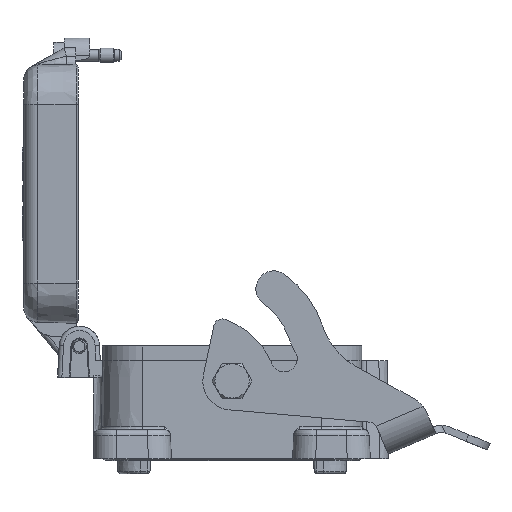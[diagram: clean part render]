
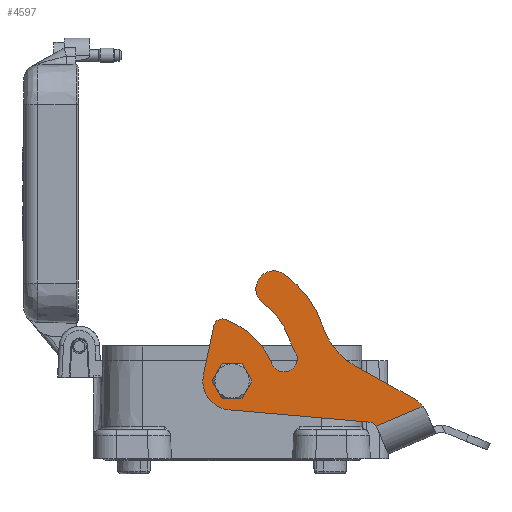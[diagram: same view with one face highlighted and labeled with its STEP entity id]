
A CAD part, left-side view. The second image highlights one B-rep face of the part: STEP entity #4597.
In plain terms, the highlighted planar face has unit normal (-1, 0, 0).
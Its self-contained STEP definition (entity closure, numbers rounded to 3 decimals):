
#4597=ADVANCED_FACE('',(#5594,#5595),#5336,.F.);
#5336=PLANE('',#18832);
#5594=FACE_BOUND('',#6130,.T.);
#5595=FACE_BOUND('',#6131,.T.);
#6130=EDGE_LOOP('',(#10694,#10695,#10696,#10697,#10698,#10699,#10700,#10701,
#10702,#10703,#10704,#10705,#10706,#10707,#10708,#10709));
#6131=EDGE_LOOP('',(#10710));
#7259=LINE('',#27713,#8385);
#7263=LINE('',#27725,#8389);
#7267=LINE('',#27760,#8393);
#7271=LINE('',#27776,#8397);
#8385=VECTOR('',#21288,1.);
#8389=VECTOR('',#21300,1.);
#8393=VECTOR('',#21318,1.);
#8397=VECTOR('',#21338,1.);
#10694=ORIENTED_EDGE('',*,*,#15643,.T.);
#10695=ORIENTED_EDGE('',*,*,#15634,.F.);
#10696=ORIENTED_EDGE('',*,*,#15635,.F.);
#10697=ORIENTED_EDGE('',*,*,#15638,.F.);
#10698=ORIENTED_EDGE('',*,*,#15592,.F.);
#10699=ORIENTED_EDGE('',*,*,#15596,.F.);
#10700=ORIENTED_EDGE('',*,*,#15599,.F.);
#10701=ORIENTED_EDGE('',*,*,#15602,.F.);
#10702=ORIENTED_EDGE('',*,*,#15605,.F.);
#10703=ORIENTED_EDGE('',*,*,#15608,.F.);
#10704=ORIENTED_EDGE('',*,*,#15611,.F.);
#10705=ORIENTED_EDGE('',*,*,#15614,.F.);
#10706=ORIENTED_EDGE('',*,*,#15617,.F.);
#10707=ORIENTED_EDGE('',*,*,#15620,.F.);
#10708=ORIENTED_EDGE('',*,*,#15623,.F.);
#10709=ORIENTED_EDGE('',*,*,#15627,.F.);
#10710=ORIENTED_EDGE('',*,*,#15641,.T.);
#13908=VERTEX_POINT('',#27663);
#13909=VERTEX_POINT('',#27664);
#13912=VERTEX_POINT('',#27672);
#13914=VERTEX_POINT('',#27678);
#13916=VERTEX_POINT('',#27684);
#13918=VERTEX_POINT('',#27690);
#13920=VERTEX_POINT('',#27696);
#13922=VERTEX_POINT('',#27702);
#13924=VERTEX_POINT('',#27708);
#13926=VERTEX_POINT('',#27714);
#13928=VERTEX_POINT('',#27720);
#13930=VERTEX_POINT('',#27726);
#13932=VERTEX_POINT('',#27735);
#13934=VERTEX_POINT('',#27748);
#13937=VERTEX_POINT('',#27757);
#13938=VERTEX_POINT('',#27761);
#13941=VERTEX_POINT('',#27772);
#15592=EDGE_CURVE('',#13908,#13909,#17439,.T.);
#15596=EDGE_CURVE('',#13912,#13908,#17441,.T.);
#15599=EDGE_CURVE('',#13914,#13912,#17443,.T.);
#15602=EDGE_CURVE('',#13916,#13914,#17445,.T.);
#15605=EDGE_CURVE('',#13918,#13916,#17447,.T.);
#15608=EDGE_CURVE('',#13920,#13918,#17449,.T.);
#15611=EDGE_CURVE('',#13922,#13920,#17451,.T.);
#15614=EDGE_CURVE('',#13924,#13922,#17453,.T.);
#15617=EDGE_CURVE('',#13926,#13924,#7259,.T.);
#15620=EDGE_CURVE('',#13928,#13926,#17455,.T.);
#15623=EDGE_CURVE('',#13930,#13928,#7263,.T.);
#15627=EDGE_CURVE('',#13932,#13930,#17457,.T.);
#15634=EDGE_CURVE('',#13937,#13934,#17460,.T.);
#15635=EDGE_CURVE('',#13938,#13937,#7267,.T.);
#15638=EDGE_CURVE('',#13909,#13938,#17461,.T.);
#15641=EDGE_CURVE('',#13941,#13941,#17464,.T.);
#15643=EDGE_CURVE('',#13932,#13934,#7271,.T.);
#17439=CIRCLE('',#18789,36.5);
#17441=CIRCLE('',#18792,6.25);
#17443=CIRCLE('',#18795,24.);
#17445=CIRCLE('',#18798,33.985);
#17447=CIRCLE('',#18801,4.5);
#17449=CIRCLE('',#18804,4.498);
#17451=CIRCLE('',#18807,28.);
#17453=CIRCLE('',#18810,3.);
#17455=CIRCLE('',#18814,9.999);
#17457=CIRCLE('',#18818,3.);
#17460=CIRCLE('',#18822,10.);
#17461=CIRCLE('',#18825,24.);
#17464=CIRCLE('',#18829,4.05);
#18789=AXIS2_PLACEMENT_3D('',#27662,#21231,#21232);
#18792=AXIS2_PLACEMENT_3D('',#27671,#21239,#21240);
#18795=AXIS2_PLACEMENT_3D('',#27677,#21246,#21247);
#18798=AXIS2_PLACEMENT_3D('',#27683,#21253,#21254);
#18801=AXIS2_PLACEMENT_3D('',#27689,#21260,#21261);
#18804=AXIS2_PLACEMENT_3D('',#27695,#21267,#21268);
#18807=AXIS2_PLACEMENT_3D('',#27701,#21274,#21275);
#18810=AXIS2_PLACEMENT_3D('',#27707,#21281,#21282);
#18814=AXIS2_PLACEMENT_3D('',#27719,#21293,#21294);
#18818=AXIS2_PLACEMENT_3D('',#27736,#21305,#21306);
#18822=AXIS2_PLACEMENT_3D('',#27758,#21314,#21315);
#18825=AXIS2_PLACEMENT_3D('',#27766,#21323,#21324);
#18829=AXIS2_PLACEMENT_3D('',#27771,#21331,#21332);
#18832=AXIS2_PLACEMENT_3D('',#27777,#21339,#21340);
#21231=DIRECTION('',(1.,0.,0.));
#21232=DIRECTION('',(0.,-0.951,0.31));
#21239=DIRECTION('',(1.,0.,0.));
#21240=DIRECTION('',(0.,-0.582,0.813));
#21246=DIRECTION('',(-1.,0.,0.));
#21247=DIRECTION('',(0.,-0.987,0.164));
#21253=DIRECTION('',(1.,0.,0.));
#21254=DIRECTION('',(0.,-0.391,-0.921));
#21260=DIRECTION('',(-1.,0.,0.));
#21261=DIRECTION('',(0.,-0.391,-0.921));
#21267=DIRECTION('',(-1.,0.,0.));
#21268=DIRECTION('',(0.,0.987,-0.16));
#21274=DIRECTION('',(1.,0.,0.));
#21275=DIRECTION('',(0.,-0.905,0.426));
#21281=DIRECTION('',(1.,0.,0.));
#21282=DIRECTION('',(0.,-0.338,0.941));
#21288=DIRECTION('',(0.,-0.208,0.978));
#21293=DIRECTION('',(1.,0.,0.));
#21294=DIRECTION('',(0.,0.976,0.217));
#21300=DIRECTION('',(0.,0.996,0.087));
#21305=DIRECTION('',(-1.,0.,0.));
#21306=DIRECTION('',(0.,-0.921,0.391));
#21314=DIRECTION('',(1.,0.,0.));
#21315=DIRECTION('',(0.,-0.921,0.391));
#21318=DIRECTION('',(0.,-0.875,-0.485));
#21323=DIRECTION('',(-1.,0.,0.));
#21324=DIRECTION('',(0.,0.485,-0.875));
#21331=DIRECTION('',(1.,0.,0.));
#21332=DIRECTION('',(0.,-0.391,-0.921));
#21338=DIRECTION('',(0.,-0.921,0.391));
#21339=DIRECTION('',(1.,0.,0.));
#21340=DIRECTION('',(0.,-0.391,-0.921));
#27662=CARTESIAN_POINT('',(-70.,3.086,34.331));
#27663=CARTESIAN_POINT('',(-70.,-18.173,64.));
#27664=CARTESIAN_POINT('',(-70.,-31.611,45.659));
#27671=CARTESIAN_POINT('',(-70.,-14.533,58.92));
#27672=CARTESIAN_POINT('',(-70.,-10.893,53.84));
#27677=CARTESIAN_POINT('',(-70.,3.086,34.331));
#27678=CARTESIAN_POINT('',(-70.,-19.532,42.356));
#27683=CARTESIAN_POINT('',(-70.,-51.561,53.72));
#27684=CARTESIAN_POINT('',(-70.,-22.041,36.881));
#27689=CARTESIAN_POINT('',(-70.,-18.132,34.651));
#27690=CARTESIAN_POINT('',(-70.,-19.891,30.509));
#27695=CARTESIAN_POINT('',(-70.,-17.99,34.586));
#27696=CARTESIAN_POINT('',(-70.,-13.549,33.865));
#27701=CARTESIAN_POINT('',(-70.,11.787,21.946));
#27702=CARTESIAN_POINT('',(-70.,2.335,48.303));
#27707=CARTESIAN_POINT('',(-70.,3.348,45.479));
#27708=CARTESIAN_POINT('',(-70.,6.282,46.102));
#27713=CARTESIAN_POINT('',(-70.,6.282,46.102));
#27714=CARTESIAN_POINT('',(-70.,9.905,29.059));
#27719=CARTESIAN_POINT('',(-70.,0.144,26.889));
#27720=CARTESIAN_POINT('',(-70.,1.016,16.928));
#27725=CARTESIAN_POINT('',(-70.,1.016,16.928));
#27726=CARTESIAN_POINT('',(-70.,-47.792,12.658));
#27735=CARTESIAN_POINT('',(-70.,-50.068,11.27));
#27736=CARTESIAN_POINT('',(-70.,-47.531,9.669));
#27748=CARTESIAN_POINT('',(-70.,-66.297,18.159));
#27757=CARTESIAN_POINT('',(-70.,-63.239,20.782));
#27758=CARTESIAN_POINT('',(-70.,-58.391,12.036));
#27760=CARTESIAN_POINT('',(-70.,-63.239,20.782));
#27761=CARTESIAN_POINT('',(-70.,-42.791,32.116));
#27766=CARTESIAN_POINT('',(-70.,-54.426,53.107));
#27771=CARTESIAN_POINT('',(-70.,0.,26.95));
#27772=CARTESIAN_POINT('',(-70.,-1.582,23.222));
#27776=CARTESIAN_POINT('',(-70.,-66.297,18.159));
#27777=CARTESIAN_POINT('',(-70.,3.086,34.331));
